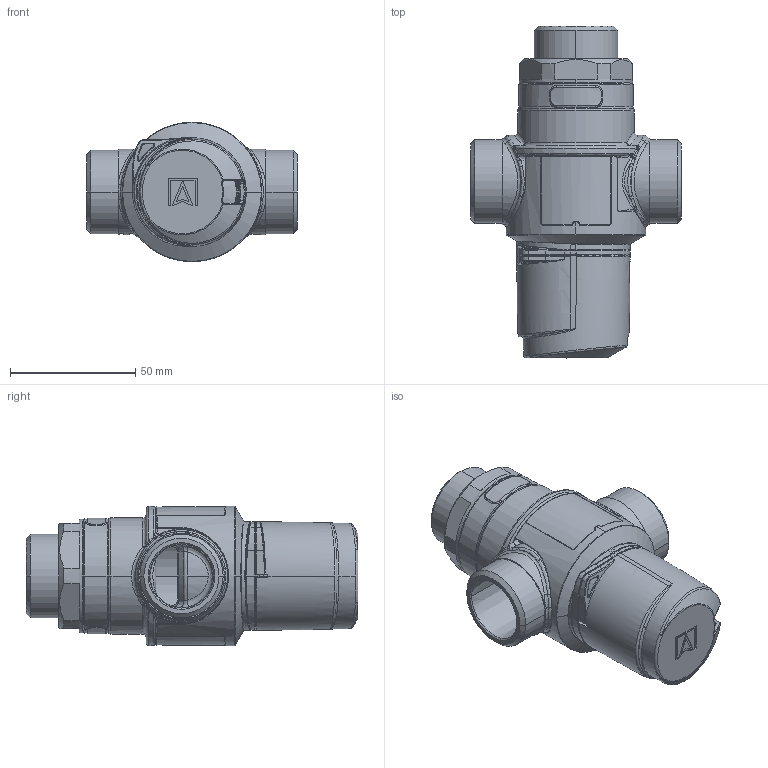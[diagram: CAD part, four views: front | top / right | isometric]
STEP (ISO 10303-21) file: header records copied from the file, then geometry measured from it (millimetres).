
FILE_DESCRIPTION (( 'STEP AP214' ), '1' );
FILE_NAME ('ATM763.STEP', '2022-02-09T10:39:30', ( '' ), ( '' ), 'SwSTEP 2.0', 'SolidWorks 2021', '' );
FILE_SCHEMA (( 'AUTOMOTIVE_DESIGN' ));
Length unit declared in the file: millimetre
Products named in the file (7): 67175; ATM763; 23051; 67079; 41217; 67080; 67081
Assembly tree (6 placements, depth 2):
  ATM763
    41217
    23051
    67175
    67079
    67080
    67081
Bounding box: 84 x 132.4 x 55.6 mm (x, y, z)
Volume: 77616.4 mm3; surface area: 78893.3 mm2
Topology: 4 solids, 456 shells, 2688 faces, 7928 edges, 5460 vertices
Faces by surface type: bspline 1343, cylinder 760, plane 395, cone 180, torus 10
Entity records: 158495 total; most frequent: CARTESIAN_POINT 75281, ORIENTED_EDGE 13120, DIRECTION 10041, EDGE_CURVE 7716, VERTEX_POINT 5460, AXIS2_PLACEMENT_3D 4067, B_SPLINE_CURVE_WITH_KNOTS 2839, EDGE_LOOP 2758
